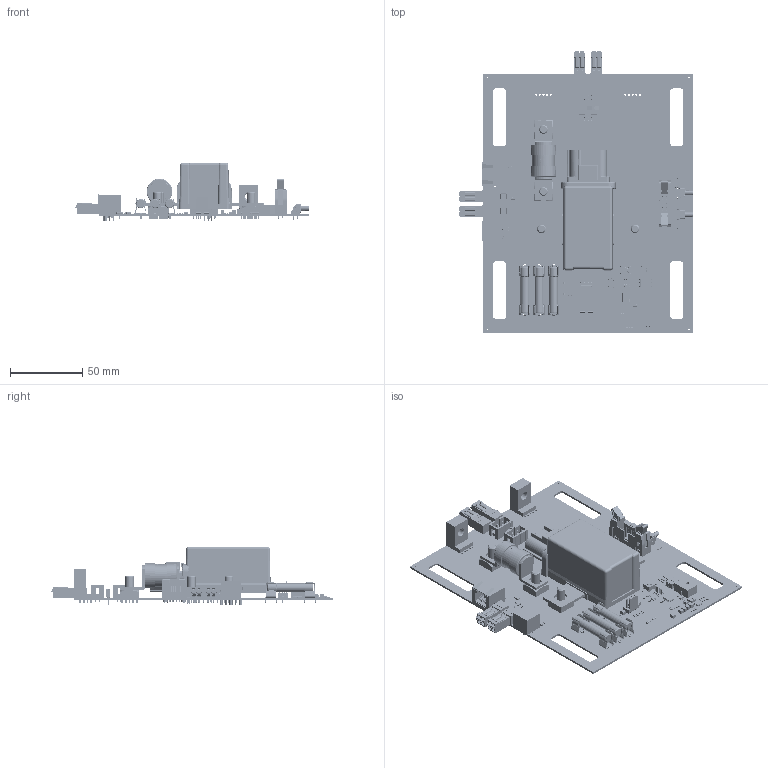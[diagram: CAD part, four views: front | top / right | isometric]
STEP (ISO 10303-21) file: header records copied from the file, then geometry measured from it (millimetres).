
FILE_DESCRIPTION(('KiCad electronic assembly'),'2;1');
FILE_NAME('PowerPro.step','2025-03-26T15:43:06',('Pcbnew'),('Kicad'), 'Open CASCADE STEP processor 7.8','KiCad to STEP converter','Unknown' );
FILE_SCHEMA(('AUTOMOTIVE_DESIGN { 1 0 10303 214 1 1 1 1 }'));
Length unit declared in the file: millimetre
Products named in the file (54): PowerPro 1; SO-4_4.4x4.3mm_P2.54mm; C_0603_1608Metric; IDC-Header_2x03_P2.54mm_Vertical; R_0603_1608Metric; LED_0603_1608Metric; HSOP-8-1EP_3.9x4.9mm_P1.27mm_EP2.41x3.1mm; SOT-23; R_1206_3216Metric; 74622106; PhoenixContact_MC_1,5_2-G-3.5_1x02_P3.50mm_Horizontal; C_1210_3225Metric; 61201022021; 10; 6120xx22x21_LEVIER_COURT; 6120xx21621_PIN; Download_STEP_691304100002 (rev1); 691304100002; 691304100002_Bas; 6913041000xx_Levier; 6913041000xx_Pin; 6913041000xx_Lamelle; 7461098; Download_STP_WE-LQFS-4818 (rev1); 4818_74406042_Housing; 4818_74406042; 4818_74406042_Pads; Glue L; Glue R; User Library-Clips LF-102071 with fuse 6_3x32; LF 102071; 6,3x32; ws-sltv_450301014042 (rev1); cover; slide; MD-60SGK; Body; Leads; STP_4312560837x6; bracket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
Assembly tree (160 placements, depth 3):
  PowerPro 1
    SO-4_4.4x4.3mm_P2.54mm  x2
    C_0603_1608Metric  x14
    IDC-Header_2x03_P2.54mm_Vertical  x2
    R_0603_1608Metric  x32
    LED_0603_1608Metric  x4
    HSOP-8-1EP_3.9x4.9mm_P1.27mm_EP2.41x3.1mm
    SOT-23  x10
    R_1206_3216Metric  x6
    74622106  x2
    PhoenixContact_MC_1,5_2-G-3.5_1x02_P3.50mm_Horizontal  x4
    C_1210_3225Metric  x8
    61201022021
      10
      6120xx22x21_LEVIER_COURT  x2
      6120xx21621_PIN  x10
    Download_STEP_691304100002 (rev1)  x4
      691304100002
      691304100002_Bas
      6913041000xx_Levier
      6913041000xx_Pin
      6913041000xx_Lamelle
    7461098  x4
    Download_STP_WE-LQFS-4818 (rev1)
      4818_74406042_Housing
      4818_74406042
      4818_74406042
      4818_74406042_Pads  x2
      Glue L
      Glue R
    User Library-Clips LF-102071 with fuse 6_3x32  x3
      LF 102071
      6,3x32
    ws-sltv_450301014042 (rev1)
      cover
      slide
    MD-60SGK
      Body
      Leads  x9
    STP_4312560837x6  x2
      bracket
      frame
    D_SOD-128
    RJ45_Amphenol_RJHSE538X
    PinHeader_2x05_P1.27mm_Vertical_SMD
    D_MiniMELF  x2
    Molex_KK-254_AE-6410-04A_1x04_P2.54mm_Vertical
    TSSOP-20_4.4x6.5mm_P0.65mm
    AT1 EV_105 v1
    CMI-1265-88-SMT-TR
    Nidec_Copal_SH-7010B
    7-1414778-3
    SW_SPST_PTS645
    powerPro_PCB
Bounding box: 163.05 x 196.2 x 40.5 mm (x, y, z)
Volume: 142708.4 mm3; surface area: 110885.3 mm2
Topology: 253 solids, 253 shells, 13789 faces, 34837 edges, 21680 vertices
Faces by surface type: plane 8379, cylinder 3261, bspline 1945, torus 78, cone 70, extrusion 26, sphere 22, revolution 8
Full cylindrical faces by diameter (mm): 0.1 x14, 0.2 x1, 0.3 x6, 0.4 x2, 0.5 x13, 0.6 x7, 0.7 x54, 0.8 x11, 0.85 x8, 0.89 x12, 0.99 x4, 1 x39, 1.1 x6, 1.19 x4, 1.2 x17, 1.3 x7, 1.35 x4, 1.4 x6, 1.45 x150, 1.57 x2, 1.9 x1, 1.98 x12, 2.109 x27, 2.5 x16, 3.25 x4, 3.3 x1, 3.5 x3, 4.917 x2, 6 x8, 16 x1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
Entity records: 201816 total; most frequent: CARTESIAN_POINT 48847, ORIENTED_EDGE 27182, DIRECTION 24172, EDGE_CURVE 13589, VECTOR 9586, LINE 9560, VERTEX_POINT 8711, AXIS2_PLACEMENT_3D 7290
